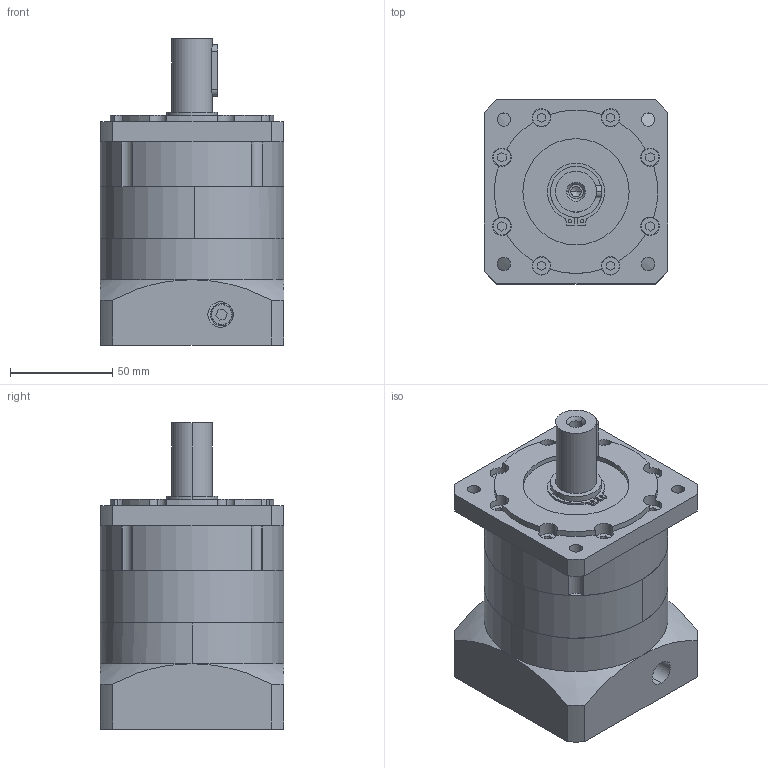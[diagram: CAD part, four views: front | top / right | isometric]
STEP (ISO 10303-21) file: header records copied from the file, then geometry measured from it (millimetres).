
FILE_DESCRIPTION (( 'STEP AP203' ), '1' );
FILE_NAME ('PLF090-L1塋拊佴杻ANDANTEX.STEP', '2021-04-12T14:14:47', ( 'Windows User' ), ( 'P R C' ), 'SwSTEP 2.0', 'SolidWorks 2016', '' );
FILE_SCHEMA (( 'CONFIG_CONTROL_DESIGN' ));
Length unit declared in the file: millimetre
Products named in the file (8): PLF90 奻屳唳_梓袧; PLF90 狟屳唳_D6-90 D7-19 梓袧; 囀鞠褒蹟佪 M6x20; 邧埴瑩 6x6x25_2; 粣創-6007 35x62x14; PLF090-L1塋拊佴杻ANDANTEX; PLF90 蟀諉啣-梓袧_D8-70 D9-90 D10-M5 A2-90 L4-32 L6-47(32+15) L7-6 R-59.5梓袧; PLF90 κｳﾝﾈｦ-ﾓﾅｻｯ_ﾒｻｼｶﾄﾚｳﾝﾈｦ
Assembly tree (7 placements, depth 2):
  PLF090-L1塋拊佴杻ANDANTEX
    PLF90 蟀諉啣-梓袧_D8-70 D9-90 D10-M5 A2-90 L4-32 L6-47(32+15) L7-6 R-59.5梓袧
    PLF90 κｳﾝﾈｦ-ﾓﾅｻｯ_ﾒｻｼｶﾄﾚｳﾝﾈｦ
    PLF90 奻屳唳_梓袧
    PLF90 狟屳唳_D6-90 D7-19 梓袧
    囀鞠褒蹟佪 M6x20
    邧埴瑩 6x6x25_2
    粣創-6007 35x62x14
Bounding box: 90 x 90 x 150 mm (x, y, z)
Volume: 681463.3 mm3; surface area: 143672.9 mm2
Topology: 7 solids, 7 shells, 980 faces, 2666 edges, 1761 vertices
Faces by surface type: plane 511, cylinder 208, bspline 105, sphere 88, torus 54, cone 14
Entity records: 38766 total; most frequent: CARTESIAN_POINT 13788, ORIENTED_EDGE 5312, DIRECTION 4628, EDGE_CURVE 2656, VERTEX_POINT 1761, AXIS2_PLACEMENT_3D 1667, VECTOR 1294, LINE 1294
